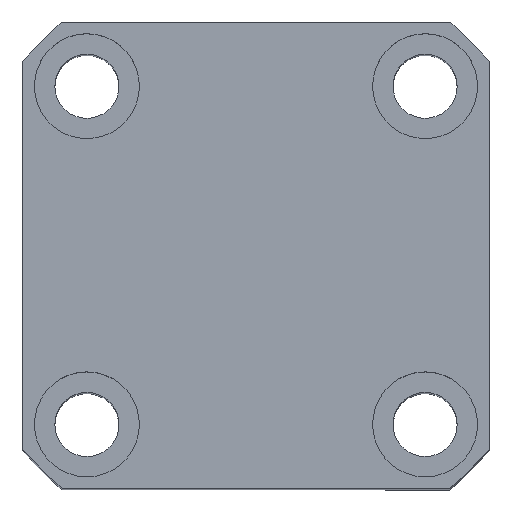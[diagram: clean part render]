
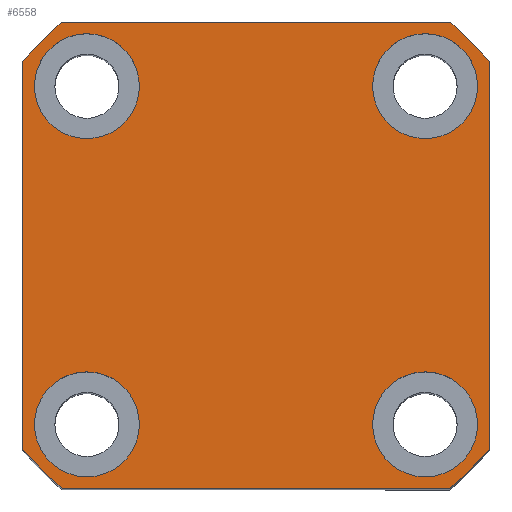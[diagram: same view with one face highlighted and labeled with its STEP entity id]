
A CAD part, top view. The second image highlights one B-rep face of the part: STEP entity #6558.
In plain terms, the highlighted planar face has unit normal (0, 0, 1).
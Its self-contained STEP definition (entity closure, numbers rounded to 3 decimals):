
#67 = VERTEX_POINT ( 'NONE', #3008 ) ;
#410 = AXIS2_PLACEMENT_3D ( 'NONE', #5834, #1480, #2556 ) ;
#565 = AXIS2_PLACEMENT_3D ( 'NONE', #10127, #4547, #5837 ) ;
#605 = DIRECTION ( 'NONE',  ( 1., 0., 0. ) ) ;
#620 = VECTOR ( 'NONE', #12196, 1000. ) ;
#773 = CIRCLE ( 'NONE', #7568, 9. ) ;
#824 = EDGE_LOOP ( 'NONE', ( #11975, #13389 ) ) ;
#1006 = EDGE_CURVE ( 'NONE', #9349, #6262, #4710, .T. ) ;
#1009 = CARTESIAN_POINT ( 'NONE',  ( 0., 0., 75. ) ) ;
#1042 = VERTEX_POINT ( 'NONE', #11588 ) ;
#1051 = VERTEX_POINT ( 'NONE', #10573 ) ;
#1137 = ORIENTED_EDGE ( 'NONE', *, *, #6961, .F. ) ;
#1215 = CARTESIAN_POINT ( 'NONE',  ( 40., 33.226, 75. ) ) ;
#1266 = CARTESIAN_POINT ( 'NONE',  ( -38., -29., 75. ) ) ;
#1317 = ORIENTED_EDGE ( 'NONE', *, *, #6598, .T. ) ;
#1480 = DIRECTION ( 'NONE',  ( 0., 0., 1. ) ) ;
#1895 = EDGE_LOOP ( 'NONE', ( #7689, #12283 ) ) ;
#1910 = CARTESIAN_POINT ( 'NONE',  ( 33.226, -40., 75. ) ) ;
#1922 = FACE_BOUND ( 'NONE', #13251, .T. ) ;
#2007 = DIRECTION ( 'NONE',  ( 1., 0., 0. ) ) ;
#2084 = CIRCLE ( 'NONE', #3301, 52. ) ;
#2257 = VERTEX_POINT ( 'NONE', #9336 ) ;
#2280 = VERTEX_POINT ( 'NONE', #5054 ) ;
#2431 = FACE_OUTER_BOUND ( 'NONE', #12397, .T. ) ;
#2474 = VERTEX_POINT ( 'NONE', #6737 ) ;
#2556 = DIRECTION ( 'NONE',  ( 1., 0., 0. ) ) ;
#2641 = DIRECTION ( 'NONE',  ( 0., 0., 1. ) ) ;
#2666 = AXIS2_PLACEMENT_3D ( 'NONE', #7527, #8530, #10877 ) ;
#2776 = CARTESIAN_POINT ( 'NONE',  ( -33.226, 40., 75. ) ) ;
#2879 = CARTESIAN_POINT ( 'NONE',  ( -40., 33.226, 75. ) ) ;
#3008 = CARTESIAN_POINT ( 'NONE',  ( 38., -29., 75. ) ) ;
#3072 = EDGE_CURVE ( 'NONE', #13836, #6616, #13443, .T. ) ;
#3201 = CARTESIAN_POINT ( 'NONE',  ( -33.226, -40., 75. ) ) ;
#3242 = DIRECTION ( 'NONE',  ( 0., 0., 1. ) ) ;
#3278 = EDGE_CURVE ( 'NONE', #5665, #2280, #10879, .T. ) ;
#3301 = AXIS2_PLACEMENT_3D ( 'NONE', #11237, #12299, #7943 ) ;
#3323 = DIRECTION ( 'NONE',  ( 1., 0., 0. ) ) ;
#3396 = EDGE_CURVE ( 'NONE', #13796, #12829, #11223, .T. ) ;
#3484 = DIRECTION ( 'NONE',  ( 0., 0., 1. ) ) ;
#3832 = DIRECTION ( 'NONE',  ( 0., 0., 1. ) ) ;
#3884 = DIRECTION ( 'NONE',  ( 1., 0., 0. ) ) ;
#3980 = CARTESIAN_POINT ( 'NONE',  ( -33.226, -40., 75. ) ) ;
#4009 = CIRCLE ( 'NONE', #7858, 9. ) ;
#4052 = DIRECTION ( 'NONE',  ( 0., 0., 1. ) ) ;
#4189 = EDGE_CURVE ( 'NONE', #2280, #5665, #4502, .T. ) ;
#4502 = CIRCLE ( 'NONE', #8574, 9. ) ;
#4513 = DIRECTION ( 'NONE',  ( 1., 0., 0. ) ) ;
#4517 = ORIENTED_EDGE ( 'NONE', *, *, #9097, .T. ) ;
#4547 = DIRECTION ( 'NONE',  ( 0., 0., 1. ) ) ;
#4710 = LINE ( 'NONE', #3980, #13126 ) ;
#4724 = CIRCLE ( 'NONE', #7273, 9. ) ;
#4741 = CARTESIAN_POINT ( 'NONE',  ( 29., -29., 75. ) ) ;
#4774 = DIRECTION ( 'NONE',  ( -1., 0., 0. ) ) ;
#5054 = CARTESIAN_POINT ( 'NONE',  ( -20., 29., 75. ) ) ;
#5349 = ORIENTED_EDGE ( 'NONE', *, *, #8536, .T. ) ;
#5508 = AXIS2_PLACEMENT_3D ( 'NONE', #11611, #4052, #9440 ) ;
#5514 = ORIENTED_EDGE ( 'NONE', *, *, #10669, .T. ) ;
#5571 = DIRECTION ( 'NONE',  ( 1., 0., 0. ) ) ;
#5665 = VERTEX_POINT ( 'NONE', #6079 ) ;
#5676 = CARTESIAN_POINT ( 'NONE',  ( 33.226, 40., 75. ) ) ;
#5793 = ORIENTED_EDGE ( 'NONE', *, *, #4189, .F. ) ;
#5834 = CARTESIAN_POINT ( 'NONE',  ( -29., -29., 75. ) ) ;
#5837 = DIRECTION ( 'NONE',  ( 1., 0., 0. ) ) ;
#6079 = CARTESIAN_POINT ( 'NONE',  ( -38., 29., 75. ) ) ;
#6178 = ORIENTED_EDGE ( 'NONE', *, *, #13628, .T. ) ;
#6245 = EDGE_CURVE ( 'NONE', #2474, #13796, #14070, .T. ) ;
#6262 = VERTEX_POINT ( 'NONE', #1910 ) ;
#6264 = CARTESIAN_POINT ( 'NONE',  ( -40., 33.226, 75. ) ) ;
#6398 = VERTEX_POINT ( 'NONE', #11696 ) ;
#6558 = ADVANCED_FACE ( 'NONE', ( #12225, #10007, #1922, #14088, #2431 ), #6911, .T. ) ;
#6572 = CARTESIAN_POINT ( 'NONE',  ( -40., -33.226, 75. ) ) ;
#6598 = EDGE_CURVE ( 'NONE', #12829, #9349, #2084, .T. ) ;
#6616 = VERTEX_POINT ( 'NONE', #1266 ) ;
#6737 = CARTESIAN_POINT ( 'NONE',  ( -33.226, 40., 75. ) ) ;
#6789 = CARTESIAN_POINT ( 'NONE',  ( 20., -29., 75. ) ) ;
#6911 = PLANE ( 'NONE',  #6991 ) ;
#6950 = DIRECTION ( 'NONE',  ( 1., 0., 0. ) ) ;
#6961 = EDGE_CURVE ( 'NONE', #6398, #1042, #4724, .T. ) ;
#6991 = AXIS2_PLACEMENT_3D ( 'NONE', #8984, #3484, #4513 ) ;
#7273 = AXIS2_PLACEMENT_3D ( 'NONE', #11152, #2641, #5571 ) ;
#7390 = CARTESIAN_POINT ( 'NONE',  ( 29., 29., 75. ) ) ;
#7527 = CARTESIAN_POINT ( 'NONE',  ( 29., -29., 75. ) ) ;
#7568 = AXIS2_PLACEMENT_3D ( 'NONE', #4741, #8222, #6950 ) ;
#7574 = AXIS2_PLACEMENT_3D ( 'NONE', #9047, #13390, #13584 ) ;
#7689 = ORIENTED_EDGE ( 'NONE', *, *, #3072, .F. ) ;
#7858 = AXIS2_PLACEMENT_3D ( 'NONE', #7390, #12373, #3323 ) ;
#7943 = DIRECTION ( 'NONE',  ( 1., 0., 0. ) ) ;
#8153 = CARTESIAN_POINT ( 'NONE',  ( 0., 0., 75. ) ) ;
#8222 = DIRECTION ( 'NONE',  ( 0., 0., 1. ) ) ;
#8530 = DIRECTION ( 'NONE',  ( 0., 0., 1. ) ) ;
#8536 = EDGE_CURVE ( 'NONE', #6262, #1051, #13868, .T. ) ;
#8574 = AXIS2_PLACEMENT_3D ( 'NONE', #10339, #10525, #11594 ) ;
#8829 = ORIENTED_EDGE ( 'NONE', *, *, #3396, .T. ) ;
#8984 = CARTESIAN_POINT ( 'NONE',  ( 0., 0., 75. ) ) ;
#9036 = LINE ( 'NONE', #1215, #620 ) ;
#9047 = CARTESIAN_POINT ( 'NONE',  ( -29., 29., 75. ) ) ;
#9097 = EDGE_CURVE ( 'NONE', #13423, #2474, #14187, .T. ) ;
#9336 = CARTESIAN_POINT ( 'NONE',  ( 40., 33.226, 75. ) ) ;
#9349 = VERTEX_POINT ( 'NONE', #3201 ) ;
#9408 = EDGE_LOOP ( 'NONE', ( #13284, #1137 ) ) ;
#9440 = DIRECTION ( 'NONE',  ( 1., 0., 0. ) ) ;
#9879 = CIRCLE ( 'NONE', #2666, 9. ) ;
#10007 = FACE_BOUND ( 'NONE', #1895, .T. ) ;
#10127 = CARTESIAN_POINT ( 'NONE',  ( -29., -29., 75. ) ) ;
#10133 = AXIS2_PLACEMENT_3D ( 'NONE', #1009, #3242, #2007 ) ;
#10339 = CARTESIAN_POINT ( 'NONE',  ( -29., 29., 75. ) ) ;
#10525 = DIRECTION ( 'NONE',  ( 0., 0., 1. ) ) ;
#10573 = CARTESIAN_POINT ( 'NONE',  ( 40., -33.226, 75. ) ) ;
#10669 = EDGE_CURVE ( 'NONE', #1051, #2257, #9036, .T. ) ;
#10877 = DIRECTION ( 'NONE',  ( 1., 0., 0. ) ) ;
#10879 = CIRCLE ( 'NONE', #7574, 9. ) ;
#11152 = CARTESIAN_POINT ( 'NONE',  ( 29., 29., 75. ) ) ;
#11223 = LINE ( 'NONE', #2879, #13944 ) ;
#11237 = CARTESIAN_POINT ( 'NONE',  ( 0., 0., 75. ) ) ;
#11368 = ORIENTED_EDGE ( 'NONE', *, *, #6245, .T. ) ;
#11563 = CIRCLE ( 'NONE', #12616, 52. ) ;
#11588 = CARTESIAN_POINT ( 'NONE',  ( 38., 29., 75. ) ) ;
#11594 = DIRECTION ( 'NONE',  ( 1., 0., 0. ) ) ;
#11611 = CARTESIAN_POINT ( 'NONE',  ( 0., 0., 75. ) ) ;
#11696 = CARTESIAN_POINT ( 'NONE',  ( 20., 29., 75. ) ) ;
#11739 = EDGE_CURVE ( 'NONE', #6616, #13836, #13650, .T. ) ;
#11818 = CARTESIAN_POINT ( 'NONE',  ( -20., -29., 75. ) ) ;
#11975 = ORIENTED_EDGE ( 'NONE', *, *, #12197, .F. ) ;
#12196 = DIRECTION ( 'NONE',  ( 0., 1., 0. ) ) ;
#12197 = EDGE_CURVE ( 'NONE', #67, #14117, #9879, .T. ) ;
#12225 = FACE_BOUND ( 'NONE', #824, .T. ) ;
#12283 = ORIENTED_EDGE ( 'NONE', *, *, #11739, .F. ) ;
#12299 = DIRECTION ( 'NONE',  ( 0., 0., 1. ) ) ;
#12373 = DIRECTION ( 'NONE',  ( 0., 0., 1. ) ) ;
#12397 = EDGE_LOOP ( 'NONE', ( #11368, #8829, #1317, #13466, #5349, #5514, #6178, #4517 ) ) ;
#12511 = EDGE_CURVE ( 'NONE', #14117, #67, #773, .T. ) ;
#12616 = AXIS2_PLACEMENT_3D ( 'NONE', #8153, #3832, #605 ) ;
#12829 = VERTEX_POINT ( 'NONE', #6572 ) ;
#12840 = EDGE_CURVE ( 'NONE', #1042, #6398, #4009, .T. ) ;
#13126 = VECTOR ( 'NONE', #3884, 1000. ) ;
#13161 = VECTOR ( 'NONE', #4774, 1000. ) ;
#13251 = EDGE_LOOP ( 'NONE', ( #5793, #13614 ) ) ;
#13284 = ORIENTED_EDGE ( 'NONE', *, *, #12840, .F. ) ;
#13389 = ORIENTED_EDGE ( 'NONE', *, *, #12511, .F. ) ;
#13390 = DIRECTION ( 'NONE',  ( 0., 0., 1. ) ) ;
#13423 = VERTEX_POINT ( 'NONE', #5676 ) ;
#13443 = CIRCLE ( 'NONE', #410, 9. ) ;
#13466 = ORIENTED_EDGE ( 'NONE', *, *, #1006, .T. ) ;
#13584 = DIRECTION ( 'NONE',  ( 1., 0., 0. ) ) ;
#13614 = ORIENTED_EDGE ( 'NONE', *, *, #3278, .F. ) ;
#13628 = EDGE_CURVE ( 'NONE', #2257, #13423, #11563, .T. ) ;
#13650 = CIRCLE ( 'NONE', #565, 9. ) ;
#13682 = DIRECTION ( 'NONE',  ( 0., -1., 0. ) ) ;
#13796 = VERTEX_POINT ( 'NONE', #6264 ) ;
#13836 = VERTEX_POINT ( 'NONE', #11818 ) ;
#13868 = CIRCLE ( 'NONE', #10133, 52. ) ;
#13944 = VECTOR ( 'NONE', #13682, 1000. ) ;
#14070 = CIRCLE ( 'NONE', #5508, 52. ) ;
#14088 = FACE_BOUND ( 'NONE', #9408, .T. ) ;
#14117 = VERTEX_POINT ( 'NONE', #6789 ) ;
#14187 = LINE ( 'NONE', #2776, #13161 ) ;
